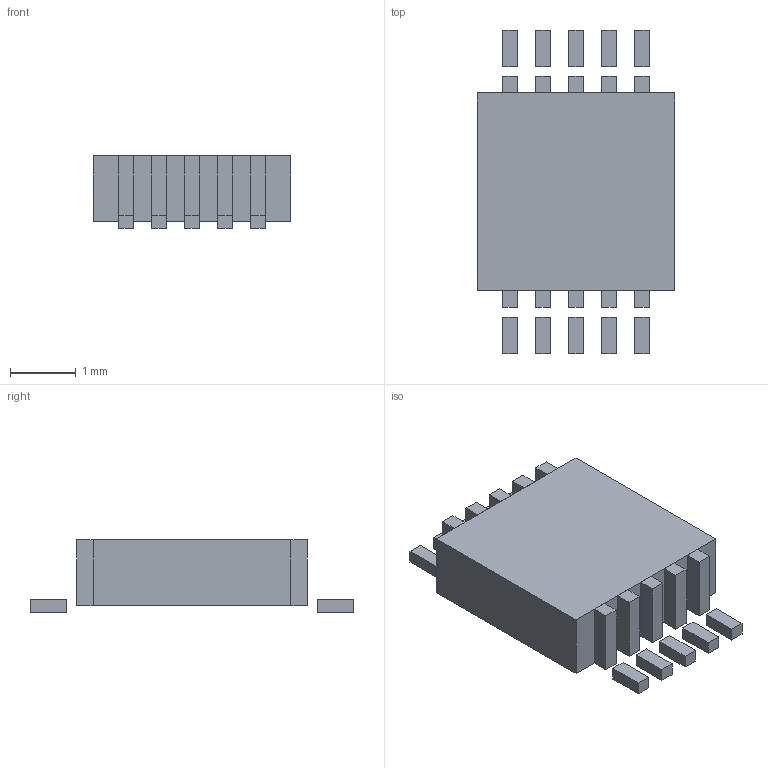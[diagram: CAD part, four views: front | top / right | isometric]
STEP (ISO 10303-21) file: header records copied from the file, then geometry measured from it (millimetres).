
FILE_DESCRIPTION(('Open CASCADE Model'),'2;1');
FILE_NAME('TI_DRV2605L_VSSOP10_DGS','2026-09-04T00:01:45',('Author'),( 'Open CASCADE'),'Open CASCADE STEP processor 7.9','build123d', 'Unknown');
FILE_SCHEMA(('AUTOMOTIVE_DESIGN { 1 0 10303 214 1 1 1 1 }'));
Length unit declared in the file: millimetre
Products named in the file (3): TI_DRV2605L_VSSOP10_DGS; body; leads_10x
Assembly tree (2 placements, depth 2):
  TI_DRV2605L_VSSOP10_DGS
    body
    leads_10x
Bounding box: 3 x 4.9 x 1.1 mm (x, y, z)
Volume: 9.8 mm3; surface area: 46 mm2
Topology: 21 solids, 21 shells, 126 faces, 252 edges, 168 vertices
Faces by surface type: plane 126
Entity records: 3202 total; most frequent: CARTESIAN_POINT 549, DIRECTION 510, ORIENTED_EDGE 504, EDGE_CURVE 252, LINE 252, VECTOR 252, VERTEX_POINT 168, AXIS2_PLACEMENT_3D 129
